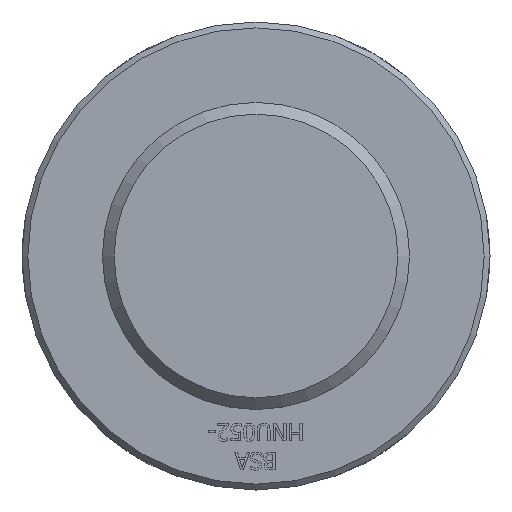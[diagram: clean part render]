
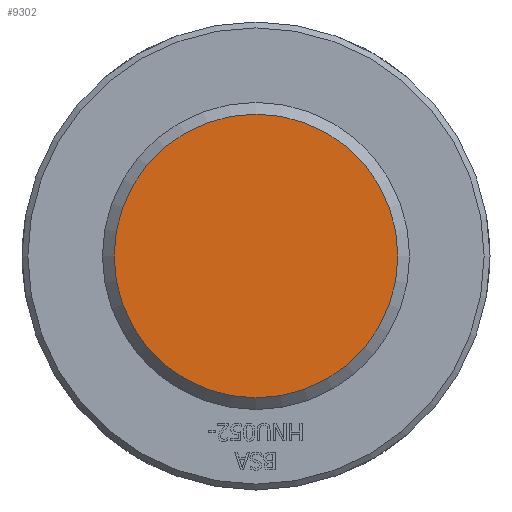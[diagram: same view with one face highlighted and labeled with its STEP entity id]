
A CAD part, front view. The second image highlights one B-rep face of the part: STEP entity #9302.
In plain terms, the highlighted planar face has unit normal (0, -1, 0) as drawn and (0, 1, 0) by its records, which use the part's own axes.
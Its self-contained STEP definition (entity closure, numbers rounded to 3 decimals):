
#61=CIRCLE('',#9807,48.5);
#1180=FACE_OUTER_BOUND('',#1728,.T.);
#1728=EDGE_LOOP('',(#7016));
#4050=VERTEX_POINT('',#13536);
#5152=EDGE_CURVE('',#4050,#4050,#61,.T.);
#7016=ORIENTED_EDGE('',*,*,#5152,.F.);
#8982=PLANE('',#9810);
#9302=ADVANCED_FACE('',(#1180),#8982,.T.);
#9807=AXIS2_PLACEMENT_3D('',#13537,#10434,#10435);
#9810=AXIS2_PLACEMENT_3D('',#13541,#10440,#10441);
#10434=DIRECTION('center_axis',(0.,-1.,0.));
#10435=DIRECTION('ref_axis',(1.,0.,0.));
#10440=DIRECTION('center_axis',(0.,1.,0.));
#10441=DIRECTION('ref_axis',(0.,0.,1.));
#13536=CARTESIAN_POINT('',(-48.5,500.,0.));
#13537=CARTESIAN_POINT('Origin',(0.,500.,0.));
#13541=CARTESIAN_POINT('Origin',(0.,500.,0.));
